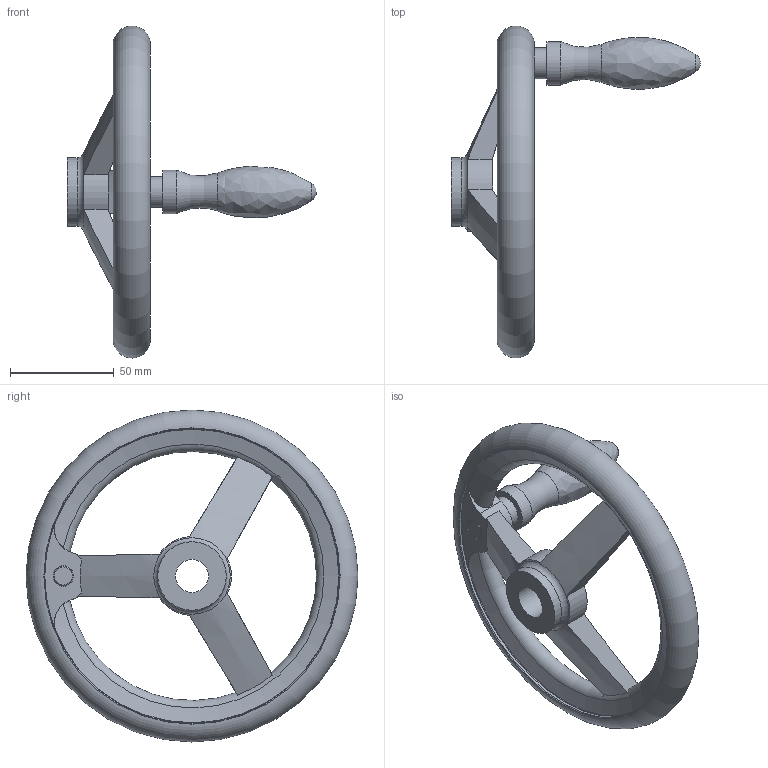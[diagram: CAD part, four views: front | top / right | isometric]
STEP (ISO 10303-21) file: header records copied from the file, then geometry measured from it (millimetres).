
FILE_DESCRIPTION( ( 'STEP AP203' ), '1' );
FILE_NAME( 'C:/Temp/Ganter_Step_05_03_2020/data/1_3/din_950/din_950_b/din_950_b_d/Handwheel DIN 950-AL-160-B16-D.stp', '2020-03-05T10:29:43', ( 'License CC BY-ND 4.0' ), ( 'CADENAS' ), ' ', 'PARTsolutions', ' ' );
FILE_SCHEMA( ( 'CONFIG_CONTROL_DESIGN' ) );
Length unit declared in the file: millimetre
Products named in the file (1): _Handwheel DIN 950-AL-160-B16-D
Bounding box: 120 x 159.98 x 159.98 mm (x, y, z)
Volume: 175493.3 mm3; surface area: 44051.5 mm2
Topology: 1 solids, 1 shells, 44 faces, 119 edges, 75 vertices
Faces by surface type: cylinder 13, plane 12, torus 11, cone 6, bspline 1, sphere 1
Full cylindrical faces by diameter (mm): 15 x1, 16 x1, 21 x1, 33 x2, 142 x2
Entity records: 1625 total; most frequent: CARTESIAN_POINT 606, DIRECTION 196, ORIENTED_EDGE 184, AXIS2_PLACEMENT_3D 93, EDGE_CURVE 92, EDGE_LOOP 71, VERTEX_POINT 71, FACE_OUTER_BOUND 60
